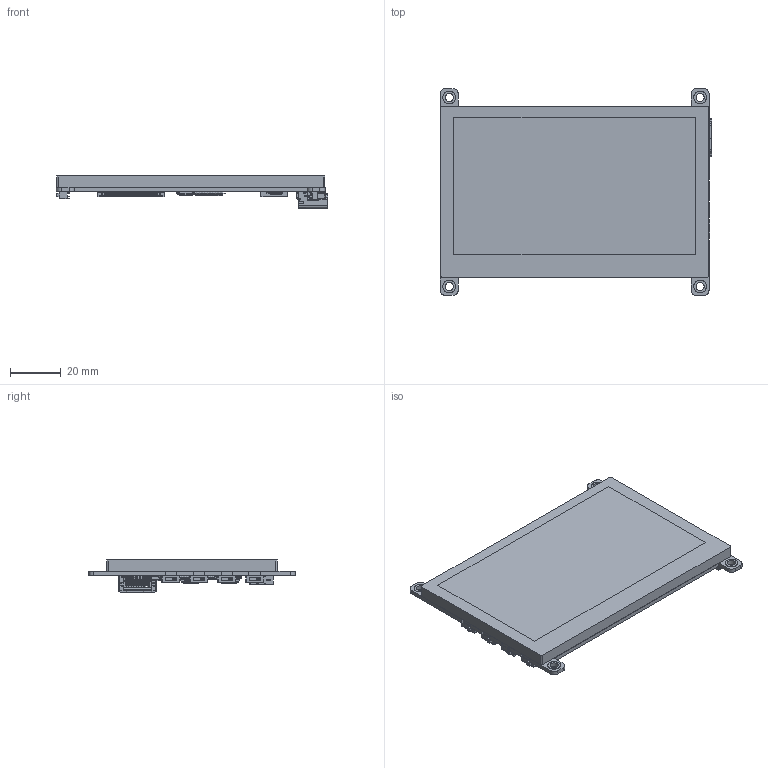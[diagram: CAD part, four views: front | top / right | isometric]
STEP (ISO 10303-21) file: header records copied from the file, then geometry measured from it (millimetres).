
FILE_DESCRIPTION(('HOOPS Exchange Step'),'2;1');
FILE_NAME('\\Server-1\e\公共文件夹\7.产品资料库\彩色-TFT\4.3寸\ER-TFTV043A3-3\3D\ER-TFTV043A3-3_3d.step','2021-01-28T11:26:30+08:00',('Administrator'),('Unknown organisation'),'HOOPS Exchange 2018.2','glovius.exe','Unknown authorisation');
FILE_SCHEMA( ('AUTOMOTIVE_DESIGN { 1 0 10303 214 1 1 1 1 }') );
Length unit declared in the file: millimetre
Products named in the file (12): 043A3-3-1; Micro-USB-1; HDMI_卡座-1; XPT2046-1; 连接器_50-Pin-1; 拨动开关-2; FLASH_IC-1; 043A3-050A3-3 IC-2; ER-TFTV043A3-3开关-1; 连接器_6-Pin-1; Default; ER-TFTV043A3-3
Assembly tree (16 placements, depth 3):
  ER-TFTV043A3-3
    Default
      043A3-3-1
      Micro-USB-1  x2
      HDMI_卡座-1
      XPT2046-1  x2
      连接器_50-Pin-1
      拨动开关-2
      FLASH_IC-1
      043A3-050A3-3 IC-2
      ER-TFTV043A3-3开关-1  x4
      连接器_6-Pin-1
Bounding box: 106.64 x 81.3 x 12.6 mm (x, y, z)
Volume: 44795 mm3; surface area: 29784.1 mm2
Topology: 115 solids, 115 shells, 6651 faces, 17818 edges, 11675 vertices
Faces by surface type: bspline 6651
Entity records: 429854 total; most frequent: CARTESIAN_POINT 235532, B_SPLINE_CURVE_WITH_KNOTS 41575, DEFINITIONAL_REPRESENTATION 29858, PCURVE 29858, ORIENTED_EDGE 29858, INTERSECTION_CURVE 14929, EDGE_CURVE 14929, VERTEX_POINT 9865
